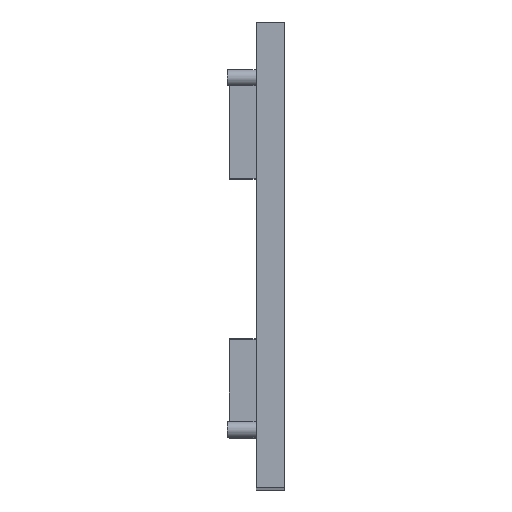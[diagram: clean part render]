
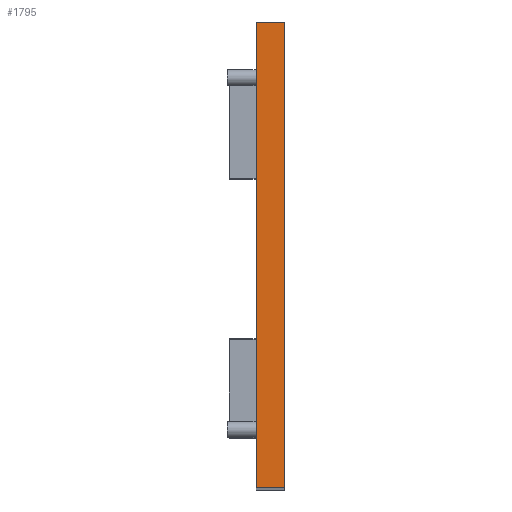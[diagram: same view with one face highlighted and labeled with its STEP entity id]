
A CAD part, top view. The second image highlights one B-rep face of the part: STEP entity #1795.
In plain terms, the highlighted planar face has unit normal (0, 0, 1).
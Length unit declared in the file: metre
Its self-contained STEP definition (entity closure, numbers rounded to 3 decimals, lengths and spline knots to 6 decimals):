
#536=ORIENTED_EDGE('',*,*,#552,.T.);
#537=ORIENTED_EDGE('',*,*,#674,.T.);
#538=ORIENTED_EDGE('',*,*,#660,.F.);
#539=ORIENTED_EDGE('',*,*,#670,.F.);
#552=EDGE_CURVE('',#780,#781,#948,.T.);
#660=EDGE_CURVE('',#883,#884,#1020,.T.);
#670=EDGE_CURVE('',#780,#883,#1030,.T.);
#674=EDGE_CURVE('',#781,#884,#1034,.T.);
#780=VERTEX_POINT('',#2441);
#781=VERTEX_POINT('',#2442);
#883=VERTEX_POINT('',#2652);
#884=VERTEX_POINT('',#2654);
#948=LINE('',#2440,#1128);
#1020=LINE('',#2653,#1200);
#1030=LINE('',#2672,#1210);
#1034=LINE('',#2678,#1214);
#1128=VECTOR('',#1971,1.);
#1200=VECTOR('',#2117,1.);
#1210=VECTOR('',#2129,1.);
#1214=VECTOR('',#2137,1.);
#1465=EDGE_LOOP('',(#536,#537,#538,#539));
#1635=FACE_BOUND('',#1465,.T.);
#1703=PLANE('',#1948);
#1795=ADVANCED_FACE('',(#1635),#1703,.T.);
#1948=AXIS2_PLACEMENT_3D('',#2899,#2409,#2410);
#1971=DIRECTION('',(0.,-1.,0.));
#2117=DIRECTION('',(0.,-1.,0.));
#2129=DIRECTION('',(1.,0.,0.));
#2137=DIRECTION('',(1.,0.,0.));
#2409=DIRECTION('',(0.,0.,1.));
#2410=DIRECTION('',(1.,0.,0.));
#2440=CARTESIAN_POINT('',(-0.06358,-0.222439,0.189271));
#2441=CARTESIAN_POINT('',(-0.06358,-0.176992,0.189271));
#2442=CARTESIAN_POINT('',(-0.06358,-0.239173,0.189271));
#2652=CARTESIAN_POINT('',(-0.059793,-0.176992,0.189271));
#2653=CARTESIAN_POINT('',(-0.059793,-0.222439,0.189271));
#2654=CARTESIAN_POINT('',(-0.059793,-0.239173,0.189271));
#2672=CARTESIAN_POINT('',(-0.061687,-0.176992,0.189271));
#2678=CARTESIAN_POINT('',(-0.061687,-0.239173,0.189271));
#2899=CARTESIAN_POINT('',(-0.061687,-0.222439,0.189271));
